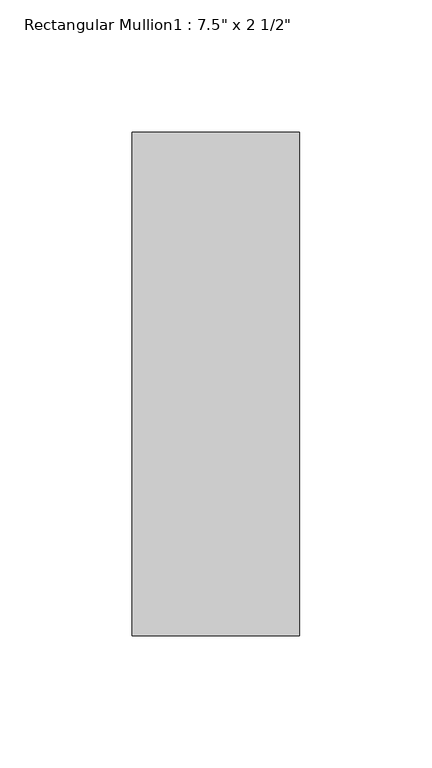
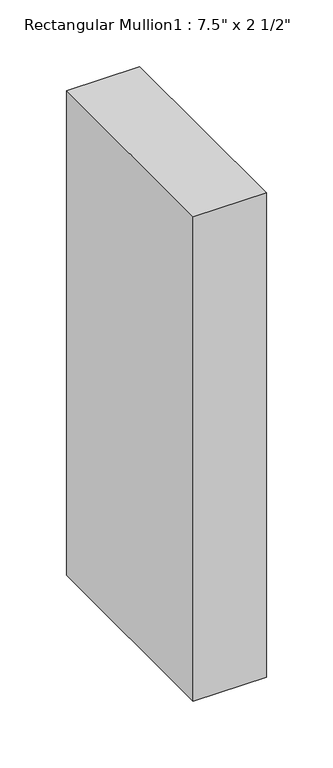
"""IFC4 building model written with IfcOpenShell, lengths in millimetres: member geometry."""

from ifc_helpers import new_model, si_unit, frame, origin, place, context, project, spatial, polyline, outline, extrude, source, transform, mapped, element, save


def member_3cec7b5d(model_context):
    return source(origin(), model_context, "Body", "SweptSolid", [
        extrude(outline(polyline([(-63.5, -165.1), (-63.5, 25.4), (0.0, 25.4), (0.0, -165.1), (-63.5, -165.1)])), frame((0.0, 0.0, -444.4999976), z_axis=(0.0, 0.0, 1.0), x_axis=(1.0, 0.0, 0.0)), (0.0, 0.0, 1.0), 444.4999976),
    ])


if __name__ == "__main__":
    model = new_model("IFC4")
    model_context = context("Model", 3, world=origin())
    ifc_project = project(units=[si_unit("LENGTHUNIT", "METRE", prefix="MILLI")], contexts=[model_context])
    site = spatial("IfcSite", under=ifc_project)
    building = spatial("IfcBuilding", under=site)
    placement = place(None, origin())
    member_shape = member_3cec7b5d(model_context)
    element("IfcMember", 1, ObjectType="Rectangular Mullion1 : 7.5\" x 2 1/2\"", at=placement, inside=building, context=model_context, shape_type="MappedRepresentation", body=[
        mapped(member_shape, transform((0.0, 0.0, 0.0), x_axis=(1.0, 0.0, 0.0), y_axis=(0.0, 1.0, 0.0), z_axis=(0.0, 0.0, 1.0))),
    ])
    save(model, "model.ifc")
